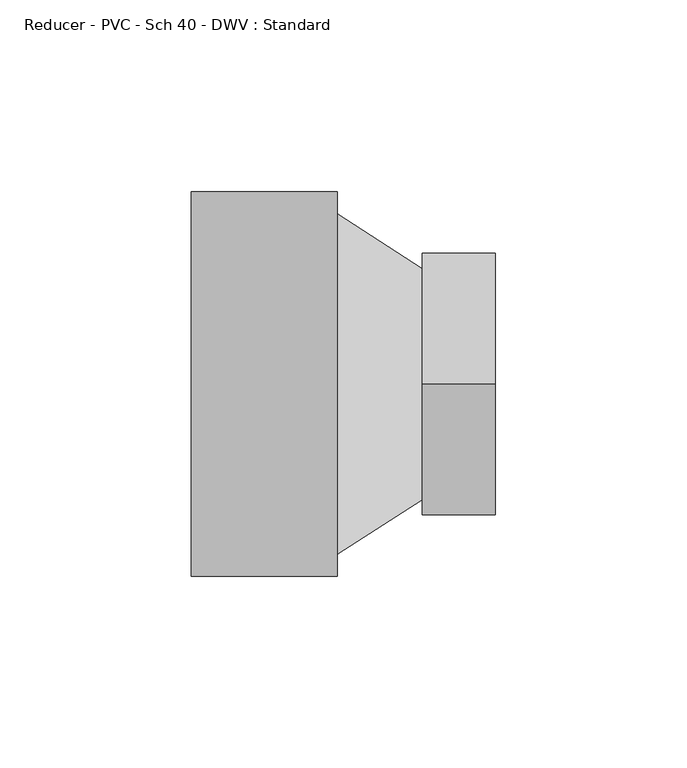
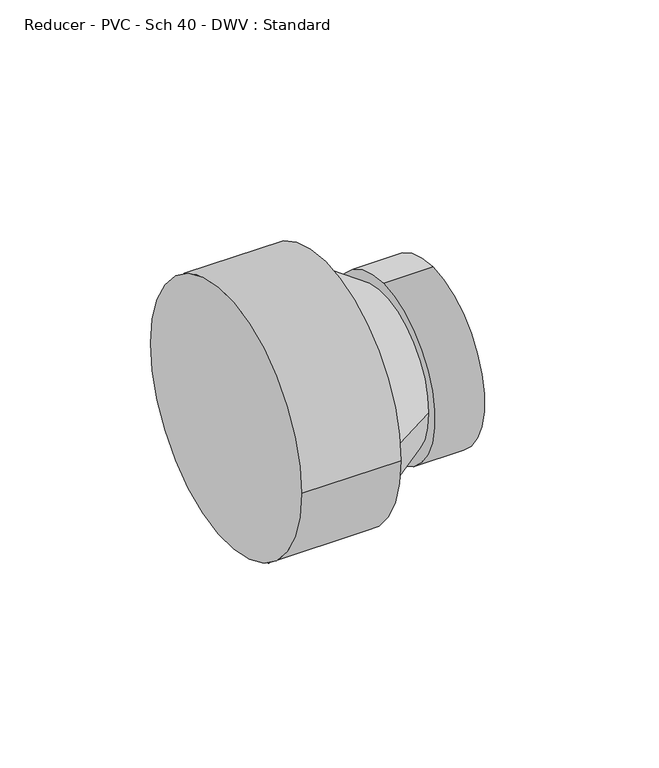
"""IFC4 building model written with IfcOpenShell, lengths in millimetres: pipe fitting geometry, Reducer - PVC - Sch 40 - DWV : Standard."""

from ifc_helpers import new_model, si_unit, frame, origin, place, context, project, spatial, circle_curve, source, transform, mapped, element, save
from ifc_brep_helpers import plane_surface, cylinder_surface, spline_surface, advanced_brep


def reducer_pvc_sch_40_dwv_standard_5cd4e870(model_context):
    return source(origin(), model_context, "Body", "AdvancedBrep", [
        advanced_brep(
        [(0.0, -50.2666, 0.0), (0.0, 50.2666, 0.0), (38.1, -50.2666, 0.0), (38.1, 50.2666, 0.0), (38.1, 44.45, 0.0), (38.1, -44.45, 0.0), (60.325, 30.1608246, -0.7550216), (60.325, -30.1641754, -0.7550216), (60.325, -0.0016754, 33.5603784), (60.325, -0.0016754, -35.0704216), (79.375, -0.0016754, 33.5603784), (79.375, -0.0016754, -35.0704216)],
        [
            (0, 1, circle_curve(frame((0.0, 0.0, 0.0), z_axis=(-1.0, 0.0, 0.0), x_axis=(0.0, 1.0, 0.0)), 50.2666)),
            (1, 0, circle_curve(frame((0.0, 0.0, 0.0), z_axis=(-1.0, 0.0, 0.0), x_axis=(0.0, 1.0, 0.0)), 50.2666)),
            (2, 3, circle_curve(frame((38.1, 0.0, 0.0), z_axis=(1.0, 0.0, 0.0), x_axis=(0.0, 1.0, 0.0)), 50.2666)),
            (3, 2, circle_curve(frame((38.1, 0.0, 0.0), z_axis=(1.0, 0.0, 0.0), x_axis=(0.0, 1.0, 0.0)), 50.2666)),
            (4, 5, circle_curve(frame((38.1, 0.0, 0.0), z_axis=(-1.0, 0.0, 0.0), x_axis=(0.0, 1.0, 0.0)), 44.45)),
            (5, 4, circle_curve(frame((38.1, 0.0, 0.0), z_axis=(-1.0, 0.0, 0.0), x_axis=(0.0, 1.0, 0.0)), 44.45)),
            (0, 2),
            (3, 1),
            (4, 6),
            (6, 7, circle_curve(frame((60.325, -0.0016754, -0.7550216), z_axis=(-1.0, 0.0, 0.0), x_axis=(0.0, 1.0, 0.0)), 30.1625)),
            (7, 5),
            (7, 6, circle_curve(frame((60.325, -0.0016754, -0.7550216), z_axis=(-1.0, 0.0, 0.0), x_axis=(0.0, 1.0, 0.0)), 30.1625)),
            (8, 9, circle_curve(frame((60.325, -0.0016754, -0.7550216), z_axis=(-1.0, 0.0, 0.0), x_axis=(0.0, 0.0, -1.0)), 34.3154)),
            (9, 8, circle_curve(frame((60.325, -0.0016754, -0.7550216), z_axis=(-1.0, 0.0, 0.0), x_axis=(0.0, 0.0, -1.0)), 34.3154)),
            (10, 11, circle_curve(frame((79.375, -0.0016754, -0.7550216), z_axis=(1.0, 0.0, 0.0), x_axis=(0.0, 0.0, -1.0)), 34.3154)),
            (11, 10, circle_curve(frame((79.375, -0.0016754, -0.7550216), z_axis=(1.0, 0.0, 0.0), x_axis=(0.0, 0.0, -1.0)), 34.3154)),
            (8, 10),
            (11, 9),
        ],
        [
            plane_surface(frame((0.0, 0.0, 0.0), z_axis=(-1.0, 0.0, 0.0), x_axis=(0.0, 0.0, 1.0))),
            plane_surface(frame((38.1, 0.0, 0.0), z_axis=(1.0, 0.0, 0.0), x_axis=(0.0, 0.0, 1.0))),
            cylinder_surface(frame((0.0, 0.0, 0.0), z_axis=(-1.0, 0.0, 0.0), x_axis=(0.0, 1.0, 0.0)), 50.2666),
            spline_surface(2, 1, [[(38.1, -44.45, 0.0), (60.325, -30.1641754, -0.7550216)], [(38.1, -44.45, -44.45), (60.325, -30.1641754, -30.9175216)], [(38.1, 0.0, -44.45), (60.325, -0.0016754, -30.9175216)], [(38.1, 44.45, -44.45), (60.325, 30.1608246, -30.9175216)], [(38.1, 44.45, 0.0), (60.325, 30.1608246, -0.7550216)]], [3, 2, 3], [2, 2], [0.0, 1.0, 2.0], [0.0, 1.0], weights=[[1.0, 1.0], [0.7071067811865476, 0.7071067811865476], [1.0, 1.0], [0.7071067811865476, 0.7071067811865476], [1.0, 1.0]]),
            spline_surface(2, 1, [[(38.1, 44.45, 0.0), (60.325, 30.1608246, -0.7550216)], [(38.1, 44.45, 44.45), (60.325, 30.1608246, 29.407478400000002)], [(38.1, 0.0, 44.45), (60.325, -0.0016754, 29.407478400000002)], [(38.1, -44.45, 44.45), (60.325, -30.1641754, 29.407478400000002)], [(38.1, -44.45, 0.0), (60.325, -30.1641754, -0.7550216)]], [3, 2, 3], [2, 2], [0.0, 1.0, 2.0], [0.0, 1.0], weights=[[1.0, 1.0], [0.7071067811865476, 0.7071067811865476], [1.0, 1.0], [0.7071067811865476, 0.7071067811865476], [1.0, 1.0]]),
            plane_surface(frame((60.325, -0.0016754, -0.7550216), z_axis=(-1.0, 0.0, 0.0), x_axis=(0.0, 1.0, 0.0))),
            plane_surface(frame((79.375, -0.0016754, -0.7550216), z_axis=(1.0, 0.0, 0.0), x_axis=(0.0, 1.0, 0.0))),
            cylinder_surface(frame((60.325, -0.0016754, -0.7550216), z_axis=(-1.0, 0.0, 0.0), x_axis=(0.0, 0.0, -1.0)), 34.3154),
        ],
        [
            (0, [[1, 2]]),
            (1, [[3, 4], [5, 6]]),
            (2, [[-1, 7, -4, 8]]),
            (2, [[-2, -8, -3, -7]]),
            (3, [[9, 10, 11, -5]]),
            (4, [[-9, -6, -11, 12]]),
            (5, [[13, 14], [-10, -12]]),
            (6, [[15, 16]]),
            (7, [[-13, 17, -16, 18]]),
            (7, [[-14, -18, -15, -17]]),
        ],
    ),
    ])


if __name__ == "__main__":
    model = new_model("IFC4")
    model_context = context("Model", 3, world=origin())
    ifc_project = project(units=[si_unit("LENGTHUNIT", "METRE", prefix="MILLI")], contexts=[model_context])
    site = spatial("IfcSite", under=ifc_project)
    building = spatial("IfcBuilding", under=site)
    placement = place(None, origin())
    reducer_pvc_sch_40_dwv_standard_shape = reducer_pvc_sch_40_dwv_standard_5cd4e870(model_context)
    element("IfcPipeFitting", 1, ObjectType="Reducer - PVC - Sch 40 - DWV : Standard", at=placement, inside=building, context=model_context, shape_type="MappedRepresentation", body=[
        mapped(reducer_pvc_sch_40_dwv_standard_shape, transform((0.0, 0.0, 0.0), x_axis=(1.0, 0.0, 0.0), y_axis=(0.0, 1.0, 0.0), z_axis=(0.0, 0.0, 1.0))),
    ])
    save(model, "model.ifc")
